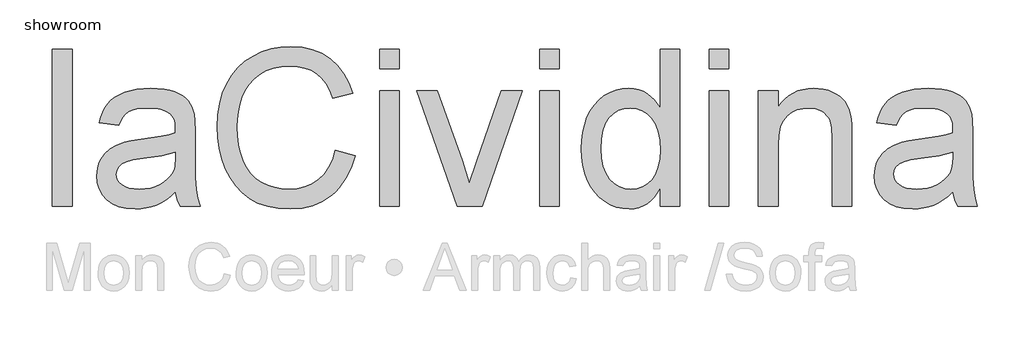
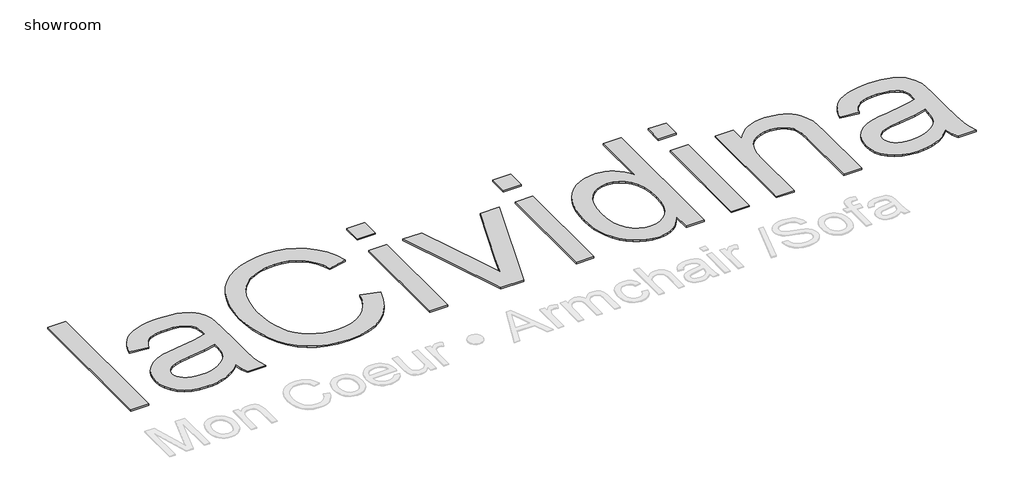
# One storey, part 2 of 2: 1 proxy.
"""IFC4 building model written with IfcOpenShell, lengths in millimetres."""

from ifc_helpers import new_model, si_unit, origin, origin_with_axes, place, context, project, spatial, polyline, outline, extrude, element, save

model = new_model("IFC4")

# Units and contexts
model_context = context("Model", 3, world=origin())
ifc_project = project(units=[si_unit("LENGTHUNIT", "METRE", prefix="MILLI")], contexts=[model_context])

# Site, building, storey
site = spatial("IfcSite", under=ifc_project)
building = spatial("IfcBuilding", under=site)
storey = spatial("IfcBuildingStorey", under=building, Name="showroom", Elevation=0.0)

# Proxy
placement = place(None, origin())
element("IfcBuildingElementProxy", 1, Name="1000mm Arial", ObjectType="1000mm Arial", at=placement, inside=storey, context=model_context, shape_type="SweptSolid", body=[
    extrude(outline(polyline([(-1952.8965336, 4695.1020807), (-1952.8965336, 5699.6651822), (-1827.326146, 5699.6651822), (-1827.326146, 4695.1020807), (-1952.8965336, 4695.1020807)])), origin_with_axes(), (0.0, 0.0, 1.0), 10.0),
    extrude(outline(polyline([(-1168.0816106, 4789.2798714), (-1197.8570596, 4761.3361682), (-1228.0770326, 4737.8377058), (-1258.7415298, 4718.7844841), (-1289.850551, 4704.1765032), (-1321.7566499, 4693.3393128), (-1354.81238, 4685.5984625), (-1389.0177413, 4680.9539523), (-1424.3727339, 4679.4057822), (-1480.283133, 4683.1305874), (-1529.311073, 4694.305003), (-1571.4565541, 4712.929029), (-1606.7195762, 4739.0026654), (-1634.5636447, 4770.8704433), (-1654.4522651, 4806.8768935), (-1666.3854373, 4847.0220163), (-1670.3631613, 4891.3058114), (-1664.3544221, 4943.3611138), (-1656.843498, 4967.5953402), (-1646.3282043, 4990.6339501), (-1618.5224569, 5031.1009696), (-1583.1751285, 5062.7388212), (-1541.6351199, 5086.6511509), (-1495.2513316, 5103.9416046), (-1450.0631599, 5113.5678502), (-1386.6035157, 5122.8262137), (-1258.2126994, 5142.6918415), (-1208.6406006, 5153.9122423), (-1168.8173746, 5165.9910345), (-1168.0816106, 5193.9500661), (-1170.2429173, 5224.3923012), (-1176.7268375, 5249.9907567), (-1187.5333711, 5270.7454326), (-1202.6625181, 5286.6563289), (-1228.8127966, 5302.5365684), (-1260.665246, 5313.8795966), (-1298.2198664, 5320.6854135), (-1341.4766577, 5322.9540191), (-1381.6984225, 5321.4441701), (-1416.27933, 5316.914623), (-1445.2193803, 5309.3653779), (-1468.5185733, 5298.7964348), (-1487.6637655, 5284.3800591), (-1504.1418132, 5265.2885164), (-1517.9527164, 5241.5218066), (-1529.0964752, 5213.0799299), (-1654.6668629, 5228.7762283), (-1645.1095952, 5264.9512912), (-1632.8698547, 5297.4475341), (-1617.9476412, 5326.2649571), (-1600.3429549, 5351.4035601), (-1579.2970391, 5373.3691809), (-1554.0511372, 5392.6676572), (-1524.6052492, 5409.2989891), (-1490.959375, 5423.2631765), (-1453.7956293, 5434.3149647), (-1413.7961265, 5442.2090992), (-1370.9608667, 5446.9455799), (-1325.2898499, 5448.5244068), (-1240.4010795, 5442.9448632), (-1204.5555776, 5435.9704337), (-1173.1093312, 5426.2062324), (-1122.3722727, 5401.0369726), (-1102.8208775, 5386.3140286), (-1087.1475717, 5370.1655418), (-1063.787065, 5331.9977848), (-1048.6425895, 5284.9395463), (-1044.0440646, 5241.5294708), (-1042.5112229, 5175.065457), (-1042.5112229, 5018.8382364), (-1040.9170676, 4882.752555), (-1036.1346017, 4800.6842133), (-1026.6922971, 4746.7588442), (-1011.118626, 4695.1020807), (-1136.6890137, 4695.1020807), (-1156.7998961, 4738.7574108), (-1168.0816106, 4789.2798714)]), holes=[polyline([(-1168.0816106, 5040.4206468), (-1252.4492148, 5019.5126868), (-1370.6619626, 5001.9156646), (-1435.8077326, 4992.2894191), (-1478.6966419, 4981.5595276), (-1506.8089577, 4967.6413254), (-1527.6249472, 4948.450148), (-1540.500817, 4925.4575233), (-1544.7927737, 4900.1349793), (-1542.4551901, 4880.6219052), (-1535.4424396, 4862.7949568), (-1523.7545221, 4846.6541343), (-1507.3914375, 4832.1994375), (-1486.50647, 4820.2892579), (-1461.2529039, 4811.7819868), (-1431.6307391, 4806.6776241), (-1397.6399756, 4804.9761699), (-1362.9364407, 4806.8539009), (-1330.1949431, 4812.487094), (-1299.4154829, 4821.8757491), (-1270.5980599, 4835.0198662), (-1244.6010656, 4850.8311278), (-1222.2828912, 4868.2212162), (-1203.6435368, 4887.1901316), (-1188.6830023, 4907.7378739), (-1179.9917902, 4926.1319736), (-1173.7837815, 4948.450148), (-1168.8173746, 5004.8587206), (-1168.0816106, 5040.4206468)])]), origin_with_axes(), (0.0, 0.0, 1.0), 10.0),
    extrude(outline(polyline([(-147.8222106, 5052.1928707), (-22.2518229, 5019.8192551), (-47.099186, 4941.7286374), (-80.1932372, 4873.4941915), (-121.5339764, 4815.1159174), (-145.296854, 4789.6228448), (-171.1214037, 4766.5938151), (-227.8365446, 4728.4490507), (-290.5604248, 4701.2027904), (-359.2930442, 4684.8550343), (-434.0344029, 4679.4057822), (-510.6075073, 4683.5291262), (-579.6850161, 4695.8991583), (-641.2669293, 4716.5158785), (-695.3532468, 4745.3792867), (-742.6873968, 4782.0601873), (-784.0128076, 4826.1293846), (-819.3294792, 4877.5868787), (-848.6374114, 4936.4326695), (-871.6530288, 5000.1222399), (-888.0927554, 5066.1110728), (-897.9565914, 5134.3991682), (-901.2445368, 5204.986526), (-897.5273958, 5280.7242317), (-886.3759728, 5351.4648737), (-867.7902678, 5417.208452), (-841.7702809, 5477.9549664), (-808.8984918, 5532.7004058), (-769.7573803, 5580.4407589), (-724.3469465, 5621.1760257), (-672.6671904, 5654.9062061), (-616.4732157, 5681.3553887), (-557.5201259, 5700.247662), (-495.8079212, 5711.583026), (-431.3366016, 5715.3614806), (-359.5153062, 5710.4717158), (-293.6567649, 5695.8024212), (-233.7609776, 5671.353597), (-179.8279442, 5637.125243), (-132.746713, 5594.0217359), (-93.4063322, 5542.9474522), (-61.8068016, 5483.902392), (-37.9481214, 5416.8865552), (-163.5185091, 5386.9654863), (-183.2921663, 5436.3459799), (-207.0512119, 5478.5374462), (-234.7956457, 5513.5398852), (-266.5254677, 5541.3532969), (-302.4246191, 5562.5448327), (-342.6770407, 5577.6816439), (-387.2827327, 5586.7637307), (-436.2416949, 5589.7910929), (-492.5736254, 5586.4341697), (-544.0924331, 5576.3634001), (-590.7981181, 5559.5787841), (-632.6906803, 5536.0803216), (-669.2412893, 5506.9256735), (-699.9211149, 5473.1725005), (-724.7301569, 5434.8208025), (-743.6684155, 5391.8705795), (-757.6709239, 5346.2685406), (-767.6727157, 5299.9613944), (-773.6737907, 5252.9491411), (-775.6741491, 5205.2317807), (-773.3059087, 5145.2670154), (-766.2011877, 5089.2263248), (-754.359986, 5037.1097089), (-737.7823036, 4988.9171675), (-716.1998932, 4945.6067268), (-689.3445075, 4908.1364127), (-657.2161466, 4876.5062253), (-619.8148104, 4850.7161646), (-578.9569164, 4830.7049169), (-536.4588817, 4816.4111686), (-492.3207065, 4807.8349196), (-446.5423907, 4804.9761699), (-391.9502355, 4808.8695877), (-341.7266789, 4820.549841), (-295.8717211, 4840.0169299), (-254.3853619, 4867.2708544), (-218.2486201, 4902.1889871), (-188.4425143, 4944.6487007), (-164.9670445, 4994.6499952), (-147.8222106, 5052.1928707)])), origin_with_axes(), (0.0, 0.0, 1.0), 10.0),
    extrude(outline(polyline([(134.7111617, 4695.1020807), (134.7111617, 5432.8281083), (260.2815493, 5432.8281083), (260.2815493, 4695.1020807), (134.7111617, 4695.1020807)])), origin_with_axes(), (0.0, 0.0, 1.0), 10.0),
    extrude(outline(polyline([(134.7111617, 5574.0947945), (134.7111617, 5699.6651822), (260.2815493, 5699.6651822), (260.2815493, 5574.0947945), (134.7111617, 5574.0947945)])), origin_with_axes(), (0.0, 0.0, 1.0), 10.0),
    extrude(outline(polyline([(629.6350725, 4695.1020807), (370.1556386, 5432.8281083), (503.0836662, 5432.8281083), (660.2919054, 4990.8792048), (707.6260555, 4842.2548787), (753.9791869, 4982.5405462), (912.1684448, 5432.8281083), (1045.0964724, 5432.8281083), (788.8053491, 4695.1020807), (629.6350725, 4695.1020807)])), origin_with_axes(), (0.0, 0.0, 1.0), 10.0),
    extrude(outline(polyline([(1154.9705616, 4695.1020807), (1154.9705616, 5432.8281083), (1280.5409493, 5432.8281083), (1280.5409493, 4695.1020807), (1154.9705616, 4695.1020807)])), origin_with_axes(), (0.0, 0.0, 1.0), 10.0),
    extrude(outline(polyline([(1154.9705616, 5574.0947945), (1154.9705616, 5699.6651822), (1280.5409493, 5699.6651822), (1280.5409493, 5574.0947945), (1154.9705616, 5574.0947945)])), origin_with_axes(), (0.0, 0.0, 1.0), 10.0),
    extrude(outline(polyline([(1924.0891862, 4695.1020807), (1924.0891862, 4813.5600831), (1906.2967268, 4782.1176688), (1886.5192374, 4754.8675765), (1864.7567182, 4731.809806), (1841.009169, 4712.9443574), (1815.2765898, 4698.2712308), (1787.5589807, 4687.790426), (1757.8563417, 4681.5019432), (1726.1686728, 4679.4057822), (1684.7206347, 4682.4408087), (1644.9893792, 4691.5458881), (1606.9749064, 4706.7210204), (1570.6772162, 4727.9662056), (1537.2306114, 4754.6453144), (1507.769395, 4786.1222176), (1482.2935668, 4822.3969152), (1460.8031269, 4863.4694071), (1443.7425994, 4908.5579442), (1431.5565083, 4956.8807771), (1424.2448537, 5008.4379059), (1421.8076355, 5063.2293305), (1424.0532485, 5117.0167439), (1430.7900875, 5168.2596401), (1442.0181526, 5216.9580192), (1457.7374436, 5263.1118812), (1477.9402965, 5305.3723254), (1502.6190471, 5342.3904512), (1531.7736952, 5374.1662585), (1565.4042409, 5400.6997474), (1602.322732, 5421.6230359), (1641.3412161, 5436.568242), (1682.4596932, 5445.5353656), (1725.6781635, 5448.5244068), (1757.2853582, 5446.3860927), (1787.1144567, 5439.9711504), (1815.1654588, 5429.2795799), (1841.4383646, 5414.3113812), (1865.6419342, 5395.9249457), (1887.4849277, 5374.9786646), (1906.967345, 5351.4725379), (1924.0891862, 5325.4065657), (1924.0891862, 5699.6651822), (2049.6595739, 5699.6651822), (2049.6595739, 4695.1020807), (1924.0891862, 4695.1020807)]), holes=[polyline([(1547.3780231, 5063.7198398), (1550.9188873, 5002.8277054), (1561.54148, 4950.1362738), (1579.245801, 4905.645545), (1604.0318504, 4869.3555191), (1633.6310226, 4841.1895538), (1665.7747119, 4821.0710072), (1700.4629184, 4808.9998792), (1737.695642, 4804.9761699), (1775.1046424, 4808.8159382), (1809.5859152, 4820.3352432), (1841.1394605, 4839.5340848), (1869.7652782, 4866.4124631), (1893.531988, 4901.1849758), (1910.5082092, 4944.0662209), (1920.693942, 4995.0561983), (1924.0891862, 5054.154908), (1920.6326283, 5118.9481244), (1910.2629545, 5174.5136341), (1892.980165, 5220.851437), (1868.7842596, 5257.9615333), (1839.5299768, 5286.3957458), (1807.0720549, 5306.7058977), (1771.410494, 5318.8919887), (1732.545294, 5322.9540191), (1694.5768065, 5319.0529371), (1659.8886, 5307.3496911), (1628.4806747, 5287.8442812), (1600.3530304, 5260.5367073), (1577.1764647, 5224.8291611), (1560.621775, 5180.1238345), (1550.6889611, 5126.4207274), (1547.3780231, 5063.7198398)])]), origin_with_axes(), (0.0, 0.0, 1.0), 10.0),
    extrude(outline(polyline([(2238.0151554, 4695.1020807), (2238.0151554, 5432.8281083), (2363.5855431, 5432.8281083), (2363.5855431, 4695.1020807), (2238.0151554, 4695.1020807)])), origin_with_axes(), (0.0, 0.0, 1.0), 10.0),
    extrude(outline(polyline([(2238.0151554, 5574.0947945), (2238.0151554, 5699.6651822), (2363.5855431, 5699.6651822), (2363.5855431, 5574.0947945), (2238.0151554, 5574.0947945)])), origin_with_axes(), (0.0, 0.0, 1.0), 10.0),
    extrude(outline(polyline([(2551.9411246, 4695.1020807), (2551.9411246, 5432.8281083), (2677.5115123, 5432.8281083), (2677.5115123, 5329.8211497), (2698.2278672, 5357.6422256), (2721.1361856, 5381.7538247), (2746.2364675, 5402.155947), (2773.5287131, 5418.8485925), (2803.0129221, 5431.8317613), (2834.6890948, 5441.1054532), (2868.5572309, 5446.6696684), (2904.6173307, 5448.5244068), (2966.5134764, 5442.5463244), (2995.5071761, 5435.0737213), (3023.1979605, 5424.6120771), (3048.5358329, 5411.7208789), (3070.4707968, 5396.9596138), (3089.0028523, 5380.3282819), (3104.1319994, 5361.8268833), (3126.9713399, 5319.305856), (3141.7785902, 5269.4885025), (3146.7449972, 5221.8477841), (3148.4004661, 5148.0874441), (3148.4004661, 4695.1020807), (3022.8300785, 4695.1020807), (3022.8300785, 5131.1648723), (3019.2125722, 5196.0960444), (3008.3600533, 5242.2652348), (2999.7378191, 5259.7319654), (2988.3411414, 5275.3439576), (2974.1700204, 5289.1012113), (2957.224456, 5301.0037267), (2917.3399163, 5317.466446), (2871.0174418, 5322.9540191), (2832.8880058, 5319.8730074), (2797.4716996, 5310.6299723), (2764.7685231, 5295.2249137), (2734.7784762, 5273.6578318), (2709.7241795, 5243.4761797), (2691.8282533, 5202.227411), (2681.0906976, 5149.9115256), (2677.5115123, 5086.5285235), (2677.5115123, 4695.1020807), (2551.9411246, 4695.1020807)])), origin_with_axes(), (0.0, 0.0, 1.0), 10.0),
    extrude(outline(polyline([(3791.948703, 4789.2798714), (3762.1732541, 4761.3361682), (3731.953281, 4737.8377058), (3701.2887839, 4718.7844841), (3670.1797626, 4704.1765032), (3638.2736638, 4693.3393128), (3605.2179337, 4685.5984625), (3571.0125723, 4680.9539523), (3535.6575797, 4679.4057822), (3479.7471807, 4683.1305874), (3430.7192406, 4694.305003), (3388.5737595, 4712.929029), (3353.3107375, 4739.0026654), (3325.466669, 4770.8704433), (3305.5780486, 4806.8768935), (3293.6448764, 4847.0220163), (3289.6671523, 4891.3058114), (3295.6758915, 4943.3611138), (3303.1868156, 4967.5953402), (3313.7021093, 4990.6339501), (3341.5078568, 5031.1009696), (3376.8551852, 5062.7388212), (3418.3951938, 5086.6511509), (3464.778982, 5103.9416046), (3509.9671537, 5113.5678502), (3573.4267979, 5122.8262137), (3701.8176142, 5142.6918415), (3751.3897131, 5153.9122423), (3791.2129391, 5165.9910345), (3791.948703, 5193.9500661), (3789.7873963, 5224.3923012), (3783.3034762, 5249.9907567), (3772.4969425, 5270.7454326), (3757.3677955, 5286.6563289), (3731.217517, 5302.5365684), (3699.3650676, 5313.8795966), (3661.8104472, 5320.6854135), (3618.553656, 5322.9540191), (3578.3318912, 5321.4441701), (3543.7509836, 5316.914623), (3514.8109333, 5309.3653779), (3491.5117403, 5298.7964348), (3472.3665481, 5284.3800591), (3455.8885004, 5265.2885164), (3442.0775972, 5241.5218066), (3430.9338384, 5213.0799299), (3305.3634508, 5228.7762283), (3314.9207184, 5264.9512912), (3327.160459, 5297.4475341), (3342.0826724, 5326.2649571), (3359.6873587, 5351.4035601), (3380.7332745, 5373.3691809), (3405.9791764, 5392.6676572), (3435.4250645, 5409.2989891), (3469.0709386, 5423.2631765), (3506.2346843, 5434.3149647), (3546.2341871, 5442.2090992), (3589.0694469, 5446.9455799), (3634.7404638, 5448.5244068), (3719.6292342, 5442.9448632), (3755.4747361, 5435.9704337), (3786.9209824, 5426.2062324), (3837.6580409, 5401.0369726), (3857.2094361, 5386.3140286), (3872.882742, 5370.1655418), (3896.2432487, 5331.9977848), (3911.3877241, 5284.9395463), (3915.9862491, 5241.5294708), (3917.5190907, 5175.065457), (3917.5190907, 5018.8382364), (3919.113246, 4882.752555), (3923.895712, 4800.6842133), (3933.3380165, 4746.7588442), (3948.9116877, 4695.1020807), (3823.3413, 4695.1020807), (3803.2304176, 4738.7574108), (3791.948703, 4789.2798714)]), holes=[polyline([(3791.948703, 5040.4206468), (3707.5810988, 5019.5126868), (3589.368351, 5001.9156646), (3524.2225811, 4992.2894191), (3481.3336718, 4981.5595276), (3453.221356, 4967.6413254), (3432.4053664, 4948.450148), (3419.5294966, 4925.4575233), (3415.23754, 4900.1349793), (3417.5751235, 4880.6219052), (3424.587874, 4862.7949568), (3436.2757916, 4846.6541343), (3452.6388762, 4832.1994375), (3473.5238436, 4820.2892579), (3498.7774097, 4811.7819868), (3528.3995745, 4806.6776241), (3562.3903381, 4804.9761699), (3597.0938729, 4806.8539009), (3629.8353705, 4812.487094), (3660.6148308, 4821.8757491), (3689.4322537, 4835.0198662), (3715.429248, 4850.8311278), (3737.7474224, 4868.2212162), (3756.3867768, 4887.1901316), (3771.3473113, 4907.7378739), (3780.0385234, 4926.1319736), (3786.2465321, 4948.450148), (3791.2129391, 5004.8587206), (3791.948703, 5040.4206468)])]), origin_with_axes(), (0.0, 0.0, 1.0), 10.0),
])

save(model, "model.ifc")
